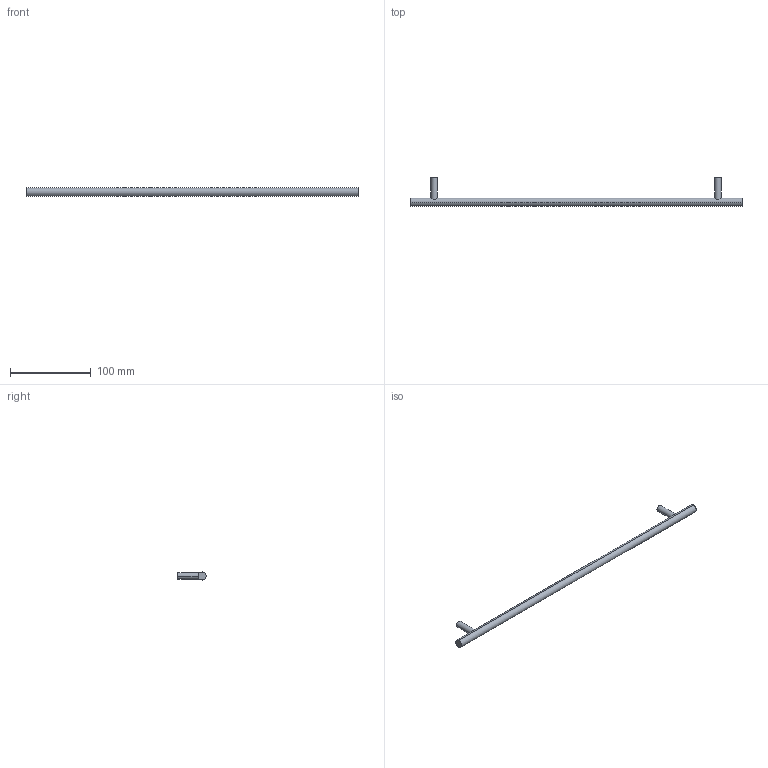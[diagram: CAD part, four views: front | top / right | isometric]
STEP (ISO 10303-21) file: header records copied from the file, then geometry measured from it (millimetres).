
FILE_DESCRIPTION( ( '' ), '1' );
FILE_NAME( 'D:/1.AUTOCAD EXPORT/Group 10/sheet_10_1/9070996.stp', '2013-10-21T10:17:44', ( '' ), ( '' ), ' ', ' ', ' ' );
FILE_SCHEMA( ( 'automotive_design' ) );
Length unit declared in the file: millimetre
Products named in the file (1): 1
Bounding box: 412 x 35 x 10 mm (x, y, z)
Volume: 34614.4 mm3; surface area: 14694.7 mm2
Topology: 1 solids, 1 shells, 16 faces, 32 edges, 22 vertices
Faces by surface type: cylinder 10, plane 6
Entity records: 972 total; most frequent: CARTESIAN_POINT 205, DIRECTION 76, STYLED_ITEM 71, PRESENTATION_STYLE_ASSIGNMENT 71, COLOUR_RGB 71, ORIENTED_EDGE 64, AXIS2_PLACEMENT_3D 33, EDGE_CURVE 32
